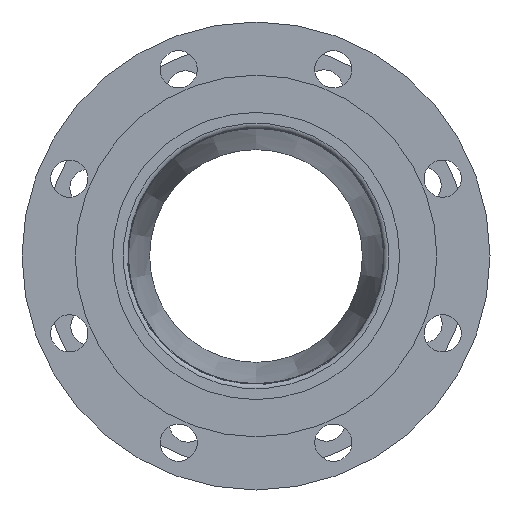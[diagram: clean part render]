
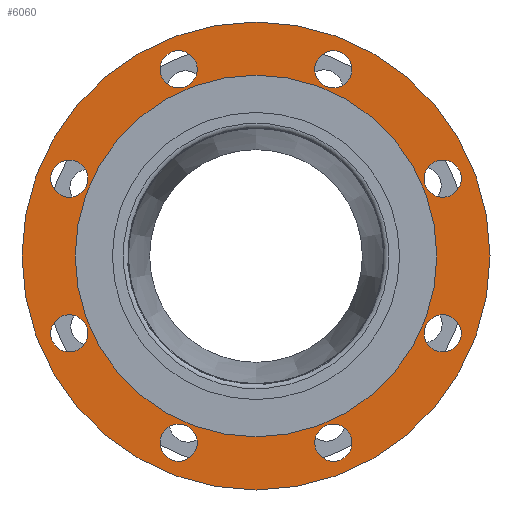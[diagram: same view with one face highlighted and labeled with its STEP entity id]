
A CAD part, front view. The second image highlights one B-rep face of the part: STEP entity #6060.
In plain terms, the highlighted planar face has unit normal (0, -1, 0) as drawn and (0, 1, 0) by its records, which use the part's own axes.
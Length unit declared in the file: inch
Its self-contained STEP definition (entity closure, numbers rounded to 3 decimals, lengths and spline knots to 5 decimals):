
#5721=CARTESIAN_POINT('',(-1.50839,0.6875,4.69779));
#5722=VERTEX_POINT('',#5721);
#5723=CARTESIAN_POINT('',(-1.81775,0.6875,4.38843));
#5724=DIRECTION('',(0.0,-1.0,0.0));
#5725=DIRECTION('',(0.707,0.0,0.707));
#5726=AXIS2_PLACEMENT_3D('',#5723,#5724,#5725);
#5727=CIRCLE('',#5726,0.4375);
#5728=EDGE_CURVE('',#5722,#5722,#5727,.T.);
#5749=CARTESIAN_POINT('',(-4.38843,0.6875,2.25525));
#5750=VERTEX_POINT('',#5749);
#5751=CARTESIAN_POINT('',(-4.38843,0.6875,1.81775));
#5752=DIRECTION('',(0.0,-1.0,0.0));
#5753=DIRECTION('',(0.0,0.0,1.0));
#5754=AXIS2_PLACEMENT_3D('',#5751,#5752,#5753);
#5755=CIRCLE('',#5754,0.4375);
#5756=EDGE_CURVE('',#5750,#5750,#5755,.T.);
#5777=CARTESIAN_POINT('',(-4.69779,0.6875,-1.50839));
#5778=VERTEX_POINT('',#5777);
#5779=CARTESIAN_POINT('',(-4.38843,0.6875,-1.81775));
#5780=DIRECTION('',(0.0,-1.0,0.0));
#5781=DIRECTION('',(-0.707,0.0,0.707));
#5782=AXIS2_PLACEMENT_3D('',#5779,#5780,#5781);
#5783=CIRCLE('',#5782,0.4375);
#5784=EDGE_CURVE('',#5778,#5778,#5783,.T.);
#5805=CARTESIAN_POINT('',(-2.25525,0.6875,-4.38843));
#5806=VERTEX_POINT('',#5805);
#5807=CARTESIAN_POINT('',(-1.81775,0.6875,-4.38843));
#5808=DIRECTION('',(0.0,-1.0,0.0));
#5809=DIRECTION('',(-1.0,0.0,0.0));
#5810=AXIS2_PLACEMENT_3D('',#5807,#5808,#5809);
#5811=CIRCLE('',#5810,0.4375);
#5812=EDGE_CURVE('',#5806,#5806,#5811,.T.);
#5833=CARTESIAN_POINT('',(1.50839,0.6875,-4.69779));
#5834=VERTEX_POINT('',#5833);
#5835=CARTESIAN_POINT('',(1.81775,0.6875,-4.38843));
#5836=DIRECTION('',(0.0,-1.0,0.0));
#5837=DIRECTION('',(-0.707,0.0,-0.707));
#5838=AXIS2_PLACEMENT_3D('',#5835,#5836,#5837);
#5839=CIRCLE('',#5838,0.4375);
#5840=EDGE_CURVE('',#5834,#5834,#5839,.T.);
#5861=CARTESIAN_POINT('',(4.38843,0.6875,-2.25525));
#5862=VERTEX_POINT('',#5861);
#5863=CARTESIAN_POINT('',(4.38843,0.6875,-1.81775));
#5864=DIRECTION('',(0.0,-1.0,0.0));
#5865=DIRECTION('',(0.0,0.0,-1.0));
#5866=AXIS2_PLACEMENT_3D('',#5863,#5864,#5865);
#5867=CIRCLE('',#5866,0.4375);
#5868=EDGE_CURVE('',#5862,#5862,#5867,.T.);
#5889=CARTESIAN_POINT('',(4.69779,0.6875,1.50839));
#5890=VERTEX_POINT('',#5889);
#5891=CARTESIAN_POINT('',(4.38843,0.6875,1.81775));
#5892=DIRECTION('',(0.0,-1.0,0.0));
#5893=DIRECTION('',(0.707,0.0,-0.707));
#5894=AXIS2_PLACEMENT_3D('',#5891,#5892,#5893);
#5895=CIRCLE('',#5894,0.4375);
#5896=EDGE_CURVE('',#5890,#5890,#5895,.T.);
#5917=CARTESIAN_POINT('',(2.25525,0.6875,4.38843));
#5918=VERTEX_POINT('',#5917);
#5919=CARTESIAN_POINT('',(1.81775,0.6875,4.38843));
#5920=DIRECTION('',(0.0,-1.0,0.0));
#5921=DIRECTION('',(1.0,0.0,0.0));
#5922=AXIS2_PLACEMENT_3D('',#5919,#5920,#5921);
#5923=CIRCLE('',#5922,0.4375);
#5924=EDGE_CURVE('',#5918,#5918,#5923,.T.);
#5945=CARTESIAN_POINT('',(4.25,0.6875,0.));
#5946=VERTEX_POINT('',#5945);
#5947=CARTESIAN_POINT('',(0.0,0.6875,0.0));
#5948=DIRECTION('',(0.0,-1.0,0.0));
#5949=DIRECTION('',(-1.0,0.0,0.0));
#5950=AXIS2_PLACEMENT_3D('',#5947,#5948,#5949);
#5951=CIRCLE('',#5950,4.25);
#5952=EDGE_CURVE('',#5946,#5946,#5951,.T.);
#6002=CARTESIAN_POINT('',(-5.5,0.6875,0.));
#6003=VERTEX_POINT('',#6002);
#6004=CARTESIAN_POINT('',(0.0,0.6875,0.0));
#6005=DIRECTION('',(0.0,-1.0,0.0));
#6006=DIRECTION('',(1.0,0.0,0.0));
#6007=AXIS2_PLACEMENT_3D('',#6004,#6005,#6006);
#6008=CIRCLE('',#6007,5.5);
#6009=EDGE_CURVE('',#6003,#6003,#6008,.T.);
#6025=CARTESIAN_POINT('',(0.0,0.6875,0.0));
#6026=DIRECTION('',(0.0,-1.0,0.0));
#6027=DIRECTION('',(0.0,0.0,-1.0));
#6028=AXIS2_PLACEMENT_3D('',#6025,#6026,#6027);
#6029=PLANE('',#6028);
#6030=ORIENTED_EDGE('',*,*,#6009,.F.);
#6031=EDGE_LOOP('',(#6030));
#6032=FACE_OUTER_BOUND('',#6031,.T.);
#6033=ORIENTED_EDGE('',*,*,#5728,.T.);
#6034=EDGE_LOOP('',(#6033));
#6035=FACE_BOUND('',#6034,.T.);
#6036=ORIENTED_EDGE('',*,*,#5756,.T.);
#6037=EDGE_LOOP('',(#6036));
#6038=FACE_BOUND('',#6037,.T.);
#6039=ORIENTED_EDGE('',*,*,#5784,.T.);
#6040=EDGE_LOOP('',(#6039));
#6041=FACE_BOUND('',#6040,.T.);
#6042=ORIENTED_EDGE('',*,*,#5812,.T.);
#6043=EDGE_LOOP('',(#6042));
#6044=FACE_BOUND('',#6043,.T.);
#6045=ORIENTED_EDGE('',*,*,#5840,.T.);
#6046=EDGE_LOOP('',(#6045));
#6047=FACE_BOUND('',#6046,.T.);
#6048=ORIENTED_EDGE('',*,*,#5868,.T.);
#6049=EDGE_LOOP('',(#6048));
#6050=FACE_BOUND('',#6049,.T.);
#6051=ORIENTED_EDGE('',*,*,#5896,.T.);
#6052=EDGE_LOOP('',(#6051));
#6053=FACE_BOUND('',#6052,.T.);
#6054=ORIENTED_EDGE('',*,*,#5924,.T.);
#6055=EDGE_LOOP('',(#6054));
#6056=FACE_BOUND('',#6055,.T.);
#6057=ORIENTED_EDGE('',*,*,#5952,.T.);
#6058=EDGE_LOOP('',(#6057));
#6059=FACE_BOUND('',#6058,.T.);
#6060=ADVANCED_FACE('',(#6032,#6035,#6038,#6041,#6044,#6047,#6050,#6053,#6056,#6059),#6029,.F.);
